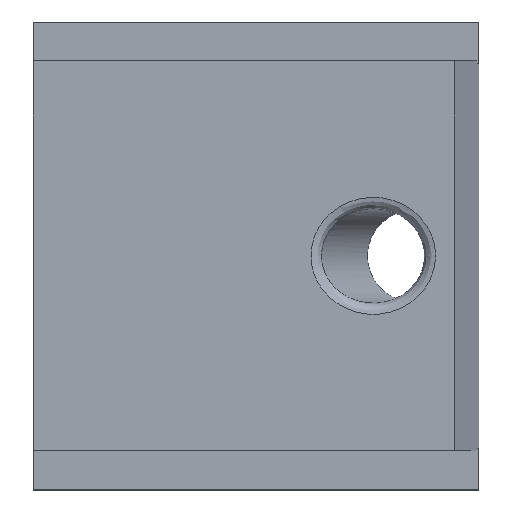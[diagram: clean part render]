
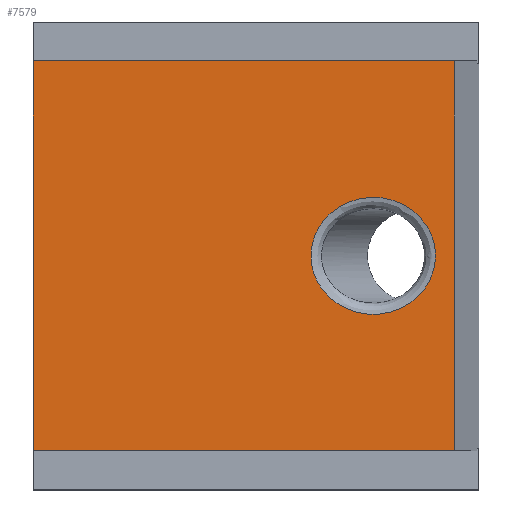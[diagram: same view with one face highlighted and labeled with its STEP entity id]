
A CAD part, top view. The second image highlights one B-rep face of the part: STEP entity #7579.
In plain terms, the highlighted planar face has unit normal (0, 0, 1).
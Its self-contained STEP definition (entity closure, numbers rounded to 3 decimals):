
#133 = LINE ( 'NONE', #901, #8777 ) ;
#178 = FACE_BOUND ( 'NONE', #2463, .T. ) ;
#207 = CARTESIAN_POINT ( 'NONE',  ( 0., -17.5, 12. ) ) ;
#214 = EDGE_CURVE ( 'NONE', #7524, #8137, #133, .T. ) ;
#496 = CARTESIAN_POINT ( 'NONE',  ( 0., 17.5, 12. ) ) ;
#783 = CARTESIAN_POINT ( 'NONE',  ( 36.111, -10.5, 12. ) ) ;
#901 = CARTESIAN_POINT ( 'NONE',  ( 0., 17.5, 12. ) ) ;
#1121 = CARTESIAN_POINT ( 'NONE',  ( 37.816, 17.5, 12. ) ) ;
#1595 = DIRECTION ( 'NONE',  ( 1., 0., 0. ) ) ;
#1745 = AXIS2_PLACEMENT_3D ( 'NONE', #2662, #6952, #9395 ) ;
#1870 = DIRECTION ( 'NONE',  ( 1., 0., 0. ) ) ;
#2425 = VECTOR ( 'NONE', #4355, 1000. ) ;
#2463 = EDGE_LOOP ( 'NONE', ( #4674 ) ) ;
#2627 = VERTEX_POINT ( 'NONE', #207 ) ;
#2662 = CARTESIAN_POINT ( 'NONE',  ( 0., 17.5, 12. ) ) ;
#2941 = ORIENTED_EDGE ( 'NONE', *, *, #214, .F. ) ;
#3066 = CARTESIAN_POINT ( 'NONE',  ( 0., 17.5, 12. ) ) ;
#3187 = EDGE_CURVE ( 'NONE', #7522, #7522, #9369, .T. ) ;
#3202 = LINE ( 'NONE', #496, #3253 ) ;
#3253 = VECTOR ( 'NONE', #3847, 1000. ) ;
#3265 = CARTESIAN_POINT ( 'NONE',  ( 24.937, 10.5, 12. ) ) ;
#3413 = CARTESIAN_POINT ( 'NONE',  ( 36.111, 0., 12. ) ) ;
#3474 = VERTEX_POINT ( 'NONE', #7699 ) ;
#3847 = DIRECTION ( 'NONE',  ( 0., -1., 0. ) ) ;
#4077 = ORIENTED_EDGE ( 'NONE', *, *, #4990, .T. ) ;
#4340 = PLANE ( 'NONE',  #1745 ) ;
#4355 = DIRECTION ( 'NONE',  ( 0., -1., 0. ) ) ;
#4586 = CARTESIAN_POINT ( 'NONE',  ( 37.816, 17.5, 12. ) ) ;
#4674 = ORIENTED_EDGE ( 'NONE', *, *, #3187, .T. ) ;
#4990 = EDGE_CURVE ( 'NONE', #7524, #2627, #3202, .T. ) ;
#5234 = LINE ( 'NONE', #1121, #2425 ) ;
#5482 = CARTESIAN_POINT ( 'NONE',  ( 0., -17.5, 12. ) ) ;
#5829 = EDGE_CURVE ( 'NONE', #2627, #3474, #9012, .T. ) ;
#5890 = VECTOR ( 'NONE', #1595, 1000. ) ;
#6788 = FACE_OUTER_BOUND ( 'NONE', #9206, .T. ) ;
#6917 = ORIENTED_EDGE ( 'NONE', *, *, #5829, .T. ) ;
#6952 = DIRECTION ( 'NONE',  ( 0., 0., -1. ) ) ;
#7522 = VERTEX_POINT ( 'NONE', #10113 ) ;
#7524 = VERTEX_POINT ( 'NONE', #3066 ) ;
#7579 = ADVANCED_FACE ( 'NONE', ( #178, #6788 ), #4340, .F. ) ;
#7699 = CARTESIAN_POINT ( 'NONE',  ( 37.816, -17.5, 12. ) ) ;
#8137 = VERTEX_POINT ( 'NONE', #4586 ) ;
#8153 = ORIENTED_EDGE ( 'NONE', *, *, #9775, .F. ) ;
#8361 = CARTESIAN_POINT ( 'NONE',  ( 36.111, 0., 12. ) ) ;
#8408 = CARTESIAN_POINT ( 'NONE',  ( 24.937, -10.5, 12. ) ) ;
#8777 = VECTOR ( 'NONE', #1870, 1000. ) ;
#9012 = LINE ( 'NONE', #5482, #5890 ) ;
#9122 = CARTESIAN_POINT ( 'NONE',  ( 36.111, 10.5, 12. ) ) ;
#9206 = EDGE_LOOP ( 'NONE', ( #6917, #8153, #2941, #4077 ) ) ;
#9369 =( BOUNDED_CURVE ( )  B_SPLINE_CURVE ( 3, ( #8361, #783, #8408, #10703, #3265, #9122, #3413 ),
 .UNSPECIFIED., .T., .F. ) 
 B_SPLINE_CURVE_WITH_KNOTS ( ( 4, 3, 4 ),
 ( 0., 3.142, 6.283 ),
 .UNSPECIFIED. ) 
 CURVE ( )  GEOMETRIC_REPRESENTATION_ITEM ( )  RATIONAL_B_SPLINE_CURVE ( ( 1., 0.333, 0.333, 1., 0.333, 0.333, 1. ) ) 
 REPRESENTATION_ITEM ( '' )  );
#9395 = DIRECTION ( 'NONE',  ( -1., 0., 0. ) ) ;
#9775 = EDGE_CURVE ( 'NONE', #8137, #3474, #5234, .T. ) ;
#10113 = CARTESIAN_POINT ( 'NONE',  ( 36.111, 0., 12. ) ) ;
#10703 = CARTESIAN_POINT ( 'NONE',  ( 24.937, 0., 12. ) ) ;
